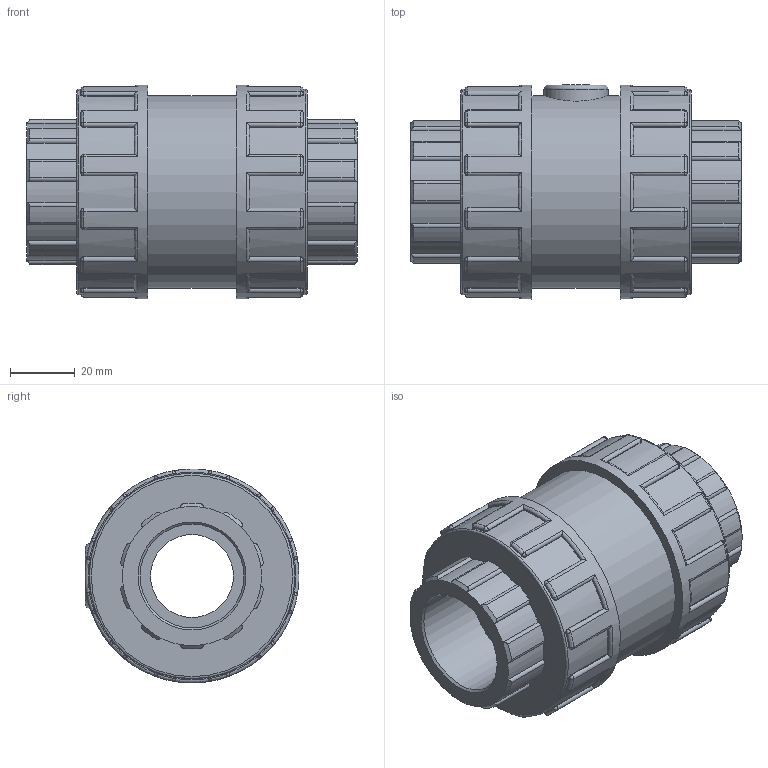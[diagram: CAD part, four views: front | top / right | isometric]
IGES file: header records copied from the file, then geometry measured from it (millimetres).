
Global section: file name: 11080032.ipt; native system: Autodesk Inventor 2015; preprocessor: unknown; author: KIM; date: 20171207.170028; units: millimetre
Bounding box: 102 x 66 x 66 mm (x, y, z)
Volume: 201905.6 mm3; surface area: 35288.1 mm2
Topology: 1 solids, 1 shells, 411 faces, 1033 edges, 630 vertices
Faces by surface type: cylinder 182, plane 105, revolution 56, sphere 48, cone 20
Full cylindrical faces by diameter (mm): 19.8 x1, 59.4 x1, 63.36 x2, 66 x2
